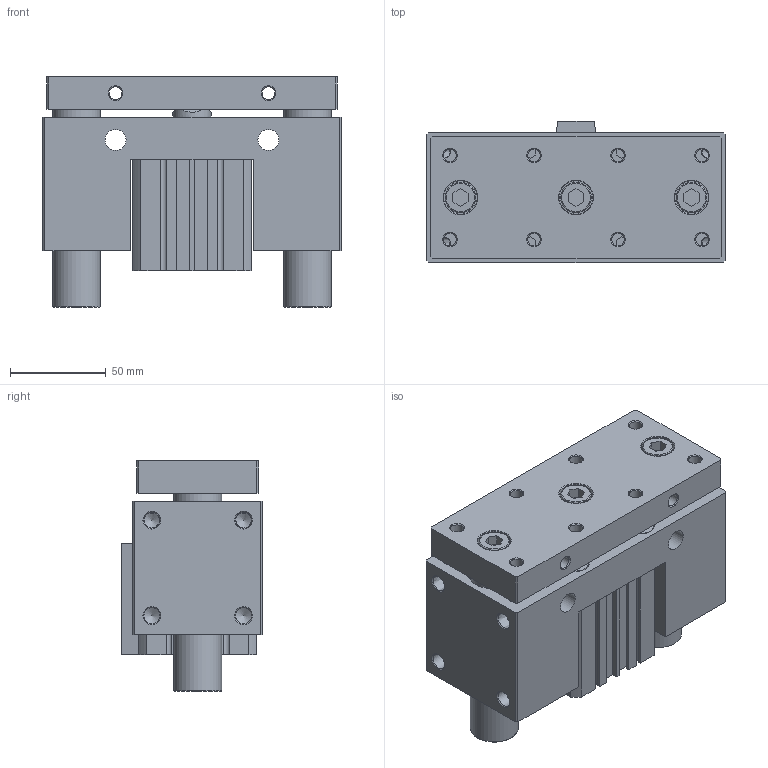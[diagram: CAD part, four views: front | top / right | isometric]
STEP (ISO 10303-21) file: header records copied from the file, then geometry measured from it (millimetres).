
FILE_DESCRIPTION((''),'2;1');
FILE_NAME('I:\3D電子目錄\氣缸\JCB\JCB\JCB50\JCB50x30.stp','2007-08-30T15:53:58',('Administrator'),(''),'Autodesk Inventor 11','Autodesk Inventor 11','');
FILE_SCHEMA(('AUTOMOTIVE_DESIGN { 1 0 10303 214 1 1 1 1 }'));
Length unit declared in the file: millimetre
Products named in the file (1): JCB50
Bounding box: 156 x 74 x 120.5 mm (x, y, z)
Volume: 872148.9 mm3; surface area: 162708.8 mm2
Topology: 3 solids, 3 shells, 328 faces, 786 edges, 510 vertices
Faces by surface type: plane 190, cylinder 58, cone 45, bspline 31, torus 4
Full cylindrical faces by diameter (mm): 2.7 x2, 6.8 x4, 8.376 x4, 11 x8, 13 x4, 14 x4, 16 x3, 17.5 x3, 20 x1, 21 x1, 25 x2, 28 x2, 37 x1, 38 x1, 52 x4, 55 x2
Entity records: 9390 total; most frequent: CARTESIAN_POINT 2294, DIRECTION 1434, ORIENTED_EDGE 1264, EDGE_CURVE 632, EDGE_LOOP 536, AXIS2_PLACEMENT_3D 512, VERTEX_POINT 480, VECTOR 410
